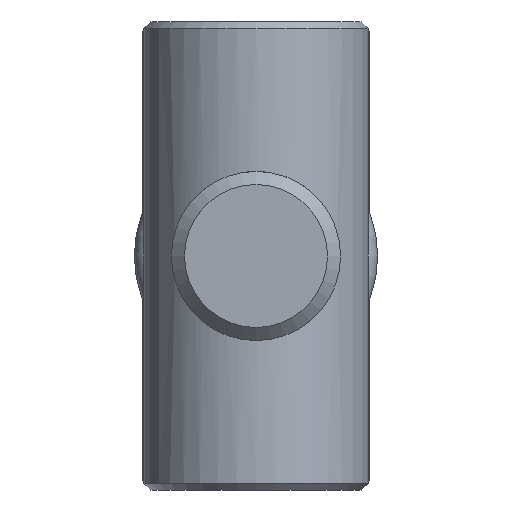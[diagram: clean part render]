
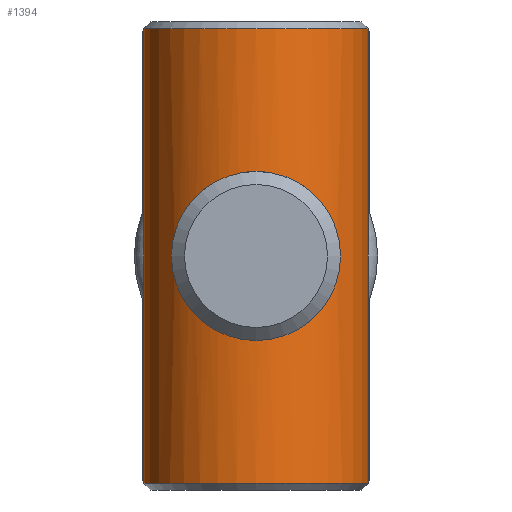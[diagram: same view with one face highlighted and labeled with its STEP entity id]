
A CAD part, left-side view. The second image highlights one B-rep face of the part: STEP entity #1394.
In plain terms, the highlighted cylindrical face has radius 4.85 mm (diameter 9.7 mm), a full revolution.
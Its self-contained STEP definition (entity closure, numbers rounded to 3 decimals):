
#320=B_SPLINE_CURVE_WITH_KNOTS('',3,(#2496,#2497,#2498,#2499,#2500,#2501,
#2502,#2503,#2504,#2505,#2506,#2507,#2508,#2509,#2510,#2511,#2512,#2513,
#2514),.UNSPECIFIED.,.T.,.F.,(1,1,1,1,1,1,1,1,1,1,1,1,1,1,1,1,1,1,1,1,1,
1,1),(-0.004,-0.003,-0.001,0.,
0.001,0.003,0.004,0.006,
0.007,0.009,0.01,0.011,
0.013,0.014,0.016,0.017,
0.018,0.02,0.021,0.023,
0.024,0.026,0.027),.UNSPECIFIED.);
#321=B_SPLINE_CURVE_WITH_KNOTS('',3,(#2518,#2519,#2520,#2521,#2522,#2523,
#2524,#2525,#2526,#2527,#2528,#2529,#2530,#2531,#2532,#2533,#2534,#2535,
#2536),.UNSPECIFIED.,.T.,.F.,(1,1,1,1,1,1,1,1,1,1,1,1,1,1,1,1,1,1,1,1,1,
1,1),(-0.004,-0.003,-0.001,0.,
0.001,0.003,0.004,0.006,
0.007,0.009,0.01,0.011,
0.013,0.014,0.016,0.017,
0.018,0.02,0.021,0.023,
0.024,0.026,0.027),.UNSPECIFIED.);
#675=ORIENTED_EDGE('',*,*,#869,.F.);
#676=ORIENTED_EDGE('',*,*,#870,.F.);
#677=ORIENTED_EDGE('',*,*,#871,.T.);
#678=ORIENTED_EDGE('',*,*,#872,.F.);
#869=EDGE_CURVE('',#1003,#1003,#1060,.T.);
#870=EDGE_CURVE('',#1004,#1004,#320,.T.);
#871=EDGE_CURVE('',#1005,#1005,#1061,.T.);
#872=EDGE_CURVE('',#1006,#1006,#321,.T.);
#1003=VERTEX_POINT('',#2495);
#1004=VERTEX_POINT('',#2515);
#1005=VERTEX_POINT('',#2517);
#1006=VERTEX_POINT('',#2537);
#1060=CIRCLE('',#1623,4.85);
#1061=CIRCLE('',#1624,4.85);
#1162=EDGE_LOOP('',(#675));
#1163=EDGE_LOOP('',(#676));
#1164=EDGE_LOOP('',(#677));
#1165=EDGE_LOOP('',(#678));
#1277=FACE_BOUND('',#1162,.T.);
#1278=FACE_BOUND('',#1163,.T.);
#1279=FACE_BOUND('',#1164,.T.);
#1280=FACE_BOUND('',#1165,.T.);
#1315=CYLINDRICAL_SURFACE('',#1622,4.85);
#1394=ADVANCED_FACE('',(#1277,#1278,#1279,#1280),#1315,.T.);
#1622=AXIS2_PLACEMENT_3D('',#2493,#2029,#2030);
#1623=AXIS2_PLACEMENT_3D('',#2494,#2031,#2032);
#1624=AXIS2_PLACEMENT_3D('',#2516,#2033,#2034);
#2029=DIRECTION('',(0.,1.,0.));
#2030=DIRECTION('',(-1.,0.,0.));
#2031=DIRECTION('',(0.,1.,0.));
#2032=DIRECTION('',(-1.,0.,0.));
#2033=DIRECTION('',(0.,1.,0.));
#2034=DIRECTION('',(-1.,0.,0.));
#2493=CARTESIAN_POINT('',(0.,10.1,0.));
#2494=CARTESIAN_POINT('',(0.,9.8,0.));
#2495=CARTESIAN_POINT('',(-4.85,9.8,0.));
#2496=CARTESIAN_POINT('',(-3.293,-1.429,-3.585));
#2497=CARTESIAN_POINT('',(-3.602,0.003,-3.245));
#2498=CARTESIAN_POINT('',(-3.298,1.416,-3.581));
#2499=CARTESIAN_POINT('',(-2.549,2.514,-4.174));
#2500=CARTESIAN_POINT('',(-1.444,3.29,-4.695));
#2501=CARTESIAN_POINT('',(-0.01,3.602,-4.925));
#2502=CARTESIAN_POINT('',(1.419,3.301,-4.703));
#2503=CARTESIAN_POINT('',(2.543,2.521,-4.179));
#2504=CARTESIAN_POINT('',(3.292,1.428,-3.586));
#2505=CARTESIAN_POINT('',(3.602,0.011,-3.245));
#2506=CARTESIAN_POINT('',(3.298,-1.417,-3.58));
#2507=CARTESIAN_POINT('',(2.553,-2.51,-4.173));
#2508=CARTESIAN_POINT('',(1.437,-3.293,-4.697));
#2509=CARTESIAN_POINT('',(0.012,-3.602,-4.925));
#2510=CARTESIAN_POINT('',(-1.423,-3.301,-4.703));
#2511=CARTESIAN_POINT('',(-2.544,-2.519,-4.178));
#2512=CARTESIAN_POINT('',(-3.293,-1.429,-3.585));
#2513=CARTESIAN_POINT('',(-3.602,0.003,-3.245));
#2514=CARTESIAN_POINT('',(-3.298,1.416,-3.581));
#2515=CARTESIAN_POINT('',(-3.5,0.,-3.357));
#2516=CARTESIAN_POINT('',(0.,-9.8,0.));
#2517=CARTESIAN_POINT('',(-4.85,-9.8,0.));
#2518=CARTESIAN_POINT('',(-3.293,1.429,3.585));
#2519=CARTESIAN_POINT('',(-3.602,-0.003,3.245));
#2520=CARTESIAN_POINT('',(-3.298,-1.416,3.581));
#2521=CARTESIAN_POINT('',(-2.549,-2.514,4.174));
#2522=CARTESIAN_POINT('',(-1.444,-3.29,4.695));
#2523=CARTESIAN_POINT('',(-0.01,-3.602,4.925));
#2524=CARTESIAN_POINT('',(1.419,-3.301,4.703));
#2525=CARTESIAN_POINT('',(2.543,-2.521,4.179));
#2526=CARTESIAN_POINT('',(3.292,-1.428,3.586));
#2527=CARTESIAN_POINT('',(3.602,-0.011,3.245));
#2528=CARTESIAN_POINT('',(3.298,1.417,3.58));
#2529=CARTESIAN_POINT('',(2.553,2.51,4.173));
#2530=CARTESIAN_POINT('',(1.437,3.293,4.697));
#2531=CARTESIAN_POINT('',(0.012,3.602,4.925));
#2532=CARTESIAN_POINT('',(-1.423,3.301,4.703));
#2533=CARTESIAN_POINT('',(-2.544,2.519,4.178));
#2534=CARTESIAN_POINT('',(-3.293,1.429,3.585));
#2535=CARTESIAN_POINT('',(-3.602,-0.003,3.245));
#2536=CARTESIAN_POINT('',(-3.298,-1.416,3.581));
#2537=CARTESIAN_POINT('',(-3.5,0.,3.357));
